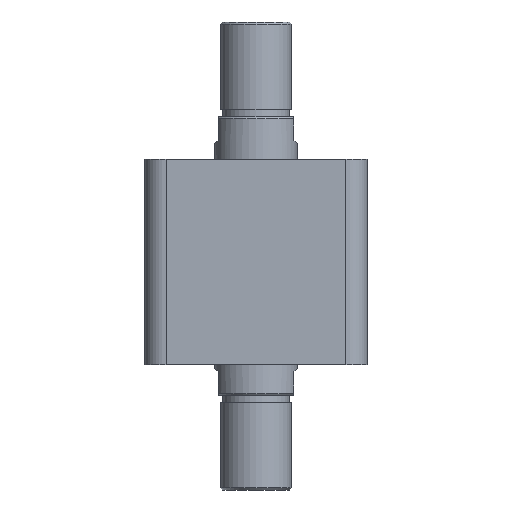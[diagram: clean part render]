
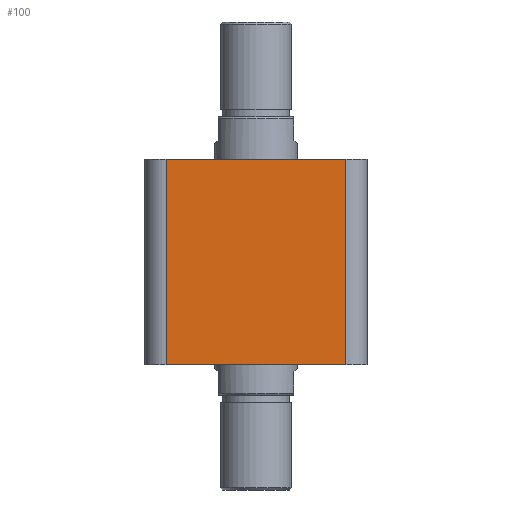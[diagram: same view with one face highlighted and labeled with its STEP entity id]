
A CAD part, front view. The second image highlights one B-rep face of the part: STEP entity #100.
In plain terms, the highlighted planar face has unit normal (0, -1, 0).
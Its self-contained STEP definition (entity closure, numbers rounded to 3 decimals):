
#100 = ADVANCED_FACE ( 'NONE', ( #2585 ), #1247, .F. ) ;
#900 = EDGE_CURVE ( 'NONE', #1989, #1988, #2742, .T. ) ;
#901 = EDGE_CURVE ( 'NONE', #1989, #2001, #2744, .T. ) ;
#902 = EDGE_CURVE ( 'NONE', #2001, #1985, #2736, .T. ) ;
#903 = EDGE_CURVE ( 'NONE', #1985, #1988, #2748, .T. ) ;
#1076 = AXIS2_PLACEMENT_3D ( 'NONE', #1243, #1249, #1250 ) ;
#1243 = CARTESIAN_POINT ( 'NONE',  ( -47., -47., 87. ) ) ;
#1247 = PLANE ( 'NONE',  #1076 ) ;
#1249 = DIRECTION ( 'NONE',  ( 0., 1., 0. ) ) ;
#1250 = DIRECTION ( 'NONE',  ( 0., 0., 1. ) ) ;
#1541 = CARTESIAN_POINT ( 'NONE',  ( -47., -47., 0. ) ) ;
#1551 = CARTESIAN_POINT ( 'NONE',  ( -47., -47., 87. ) ) ;
#1552 = DIRECTION ( 'NONE',  ( 1., 0., 0. ) ) ;
#1553 = CARTESIAN_POINT ( 'NONE',  ( -38., -47., 87. ) ) ;
#1554 = DIRECTION ( 'NONE',  ( 0., 0., -1. ) ) ;
#1555 = DIRECTION ( 'NONE',  ( 1., 0., 0. ) ) ;
#1556 = CARTESIAN_POINT ( 'NONE',  ( 38., -47., 87. ) ) ;
#1557 = DIRECTION ( 'NONE',  ( 0., 0., 1. ) ) ;
#1757 = ORIENTED_EDGE ( 'NONE', *, *, #900, .F. ) ;
#1864 = ORIENTED_EDGE ( 'NONE', *, *, #903, .T. ) ;
#1985 = VERTEX_POINT ( 'NONE', #3257 ) ;
#1988 = VERTEX_POINT ( 'NONE', #3260 ) ;
#1989 = VERTEX_POINT ( 'NONE', #3261 ) ;
#2001 = VERTEX_POINT ( 'NONE', #3273 ) ;
#2089 = ORIENTED_EDGE ( 'NONE', *, *, #902, .T. ) ;
#2090 = ORIENTED_EDGE ( 'NONE', *, *, #901, .T. ) ;
#2524 = EDGE_LOOP ( 'NONE', ( #1757, #2090, #2089, #1864 ) ) ;
#2585 = FACE_OUTER_BOUND ( 'NONE', #2524, .T. ) ;
#2736 = LINE ( 'NONE', #1541, #2749 ) ;
#2742 = LINE ( 'NONE', #1551, #2745 ) ;
#2744 = LINE ( 'NONE', #1553, #2747 ) ;
#2745 = VECTOR ( 'NONE', #1552, 1000. ) ;
#2747 = VECTOR ( 'NONE', #1554, 1000. ) ;
#2748 = LINE ( 'NONE', #1556, #2751 ) ;
#2749 = VECTOR ( 'NONE', #1555, 1000. ) ;
#2751 = VECTOR ( 'NONE', #1557, 1000. ) ;
#3257 = CARTESIAN_POINT ( 'NONE',  ( 38., -47., 0. ) ) ;
#3260 = CARTESIAN_POINT ( 'NONE',  ( 38., -47., 87. ) ) ;
#3261 = CARTESIAN_POINT ( 'NONE',  ( -38., -47., 87. ) ) ;
#3273 = CARTESIAN_POINT ( 'NONE',  ( -38., -47., 0. ) ) ;
